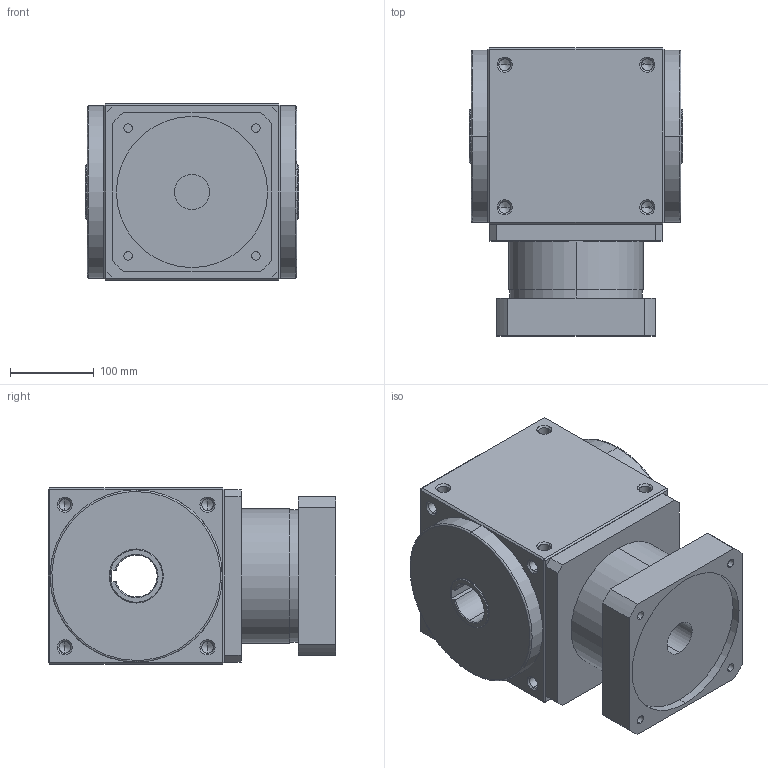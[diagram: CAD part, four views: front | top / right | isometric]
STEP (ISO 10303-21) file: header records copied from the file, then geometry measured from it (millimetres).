
FILE_DESCRIPTION (( 'STEP AP214' ), '1' );
FILE_NAME ('AT210-FH-L1--35-114.3-200-M12-SK.STEP', '2020-11-20T06:07:20', ( '微软用户' ), ( '微软中国' ), 'SwSTEP 2.0', 'SolidWorks 2014', '' );
FILE_SCHEMA (( 'AUTOMOTIVE_DESIGN' ));
Length unit declared in the file: millimetre
Products named in the file (2): AT210-FH-L1--35-114.3-200-M12-SK
Bounding box: 254 x 343 x 210 mm (x, y, z)
Volume: 13412646 mm3; surface area: 482359.3 mm2
Topology: 1 solids, 1 shells, 260 faces, 648 edges, 360 vertices
Faces by surface type: cylinder 111, cone 90, plane 55, bspline 4
Entity records: 9827 total; most frequent: CARTESIAN_POINT 1650, ORIENTED_EDGE 1216, DIRECTION 1200, EDGE_CURVE 608, AXIS2_PLACEMENT_3D 454, VERTEX_POINT 360, EDGE_LOOP 296, LINE 292
